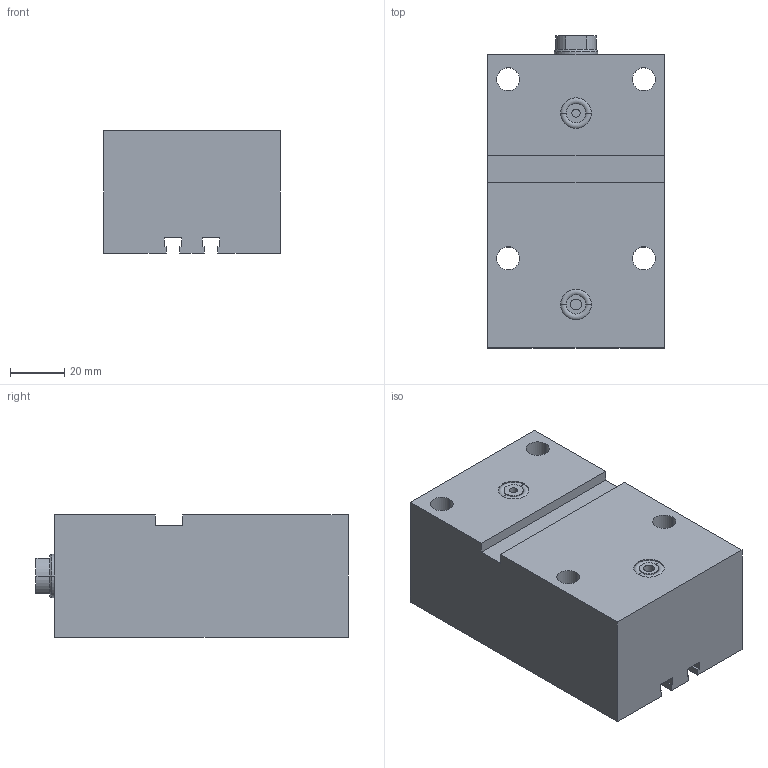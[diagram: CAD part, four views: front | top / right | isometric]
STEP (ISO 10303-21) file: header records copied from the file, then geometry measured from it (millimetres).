
FILE_DESCRIPTION (( 'STEP AP203' ), '1' );
FILE_NAME ('GERMA_Blockzylinder_703-025-050.STEP', '2016-08-01T17:03:46', ( '' ), ( '' ), 'SwSTEP 2.0', 'SolidWorks 2015', '' );
FILE_SCHEMA (( 'CONFIG_CONTROL_DESIGN' ));
Length unit declared in the file: millimetre
Products named in the file (3): GH-700-025_GH-703-025-050; GERMA_Blockzylinder_703-025-050; Kolben_MT 70x-025_Kolben_MT DU.25-Hub50-IG
Assembly tree (2 placements, depth 2):
  GERMA_Blockzylinder_703-025-050
    GH-700-025_GH-703-025-050
    Kolben_MT 70x-025_Kolben_MT DU.25-Hub50-IG
Bounding box: 65 x 115 x 45 mm (x, y, z)
Volume: 281329.8 mm3; surface area: 51716 mm2
Topology: 2 solids, 2 shells, 104 faces, 242 edges, 150 vertices
Faces by surface type: cylinder 43, plane 43, cone 14, torus 4
Entity records: 3246 total; most frequent: DIRECTION 555, CARTESIAN_POINT 495, ORIENTED_EDGE 472, EDGE_CURVE 236, AXIS2_PLACEMENT_3D 210, VERTEX_POINT 150, VECTOR 135, LINE 135
